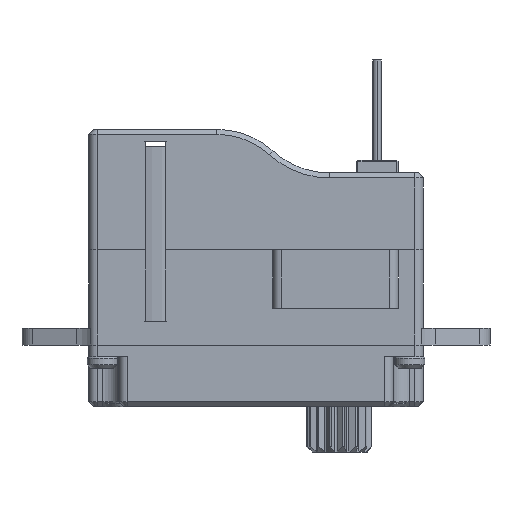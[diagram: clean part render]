
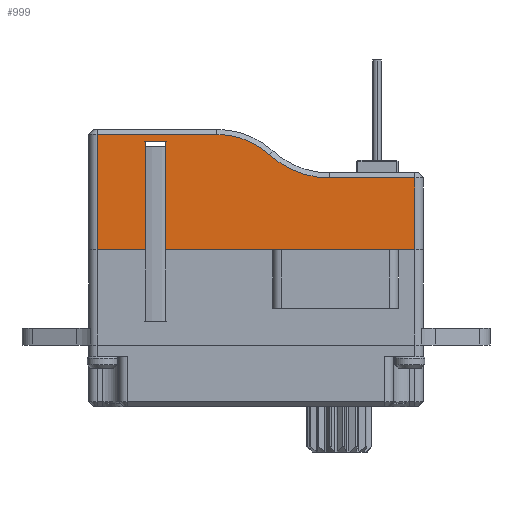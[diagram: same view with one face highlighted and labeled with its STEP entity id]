
A CAD part, front view. The second image highlights one B-rep face of the part: STEP entity #999.
In plain terms, the highlighted planar face has unit normal (0, -1, 0).
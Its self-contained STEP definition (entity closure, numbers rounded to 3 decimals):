
#37 = DIRECTION ( 'NONE',  ( 0., 0., 1. ) ) ;
#292 = CARTESIAN_POINT ( 'NONE',  ( -31.374, -2.147, 9.178 ) ) ;
#509 = EDGE_CURVE ( 'NONE', #3341, #15913, #2601, .T. ) ;
#744 = VECTOR ( 'NONE', #16029, 1000. ) ;
#886 = EDGE_CURVE ( 'NONE', #13020, #7275, #16027, .T. ) ;
#999 = ADVANCED_FACE ( 'NONE', ( #5950 ), #16090, .F. ) ;
#1147 = DIRECTION ( 'NONE',  ( -1., 0., 0. ) ) ;
#1313 = ORIENTED_EDGE ( 'NONE', *, *, #509, .T. ) ;
#1350 = VERTEX_POINT ( 'NONE', #11391 ) ;
#1457 = ORIENTED_EDGE ( 'NONE', *, *, #4459, .T. ) ;
#1727 = LINE ( 'NONE', #13978, #15967 ) ;
#1899 = VERTEX_POINT ( 'NONE', #2606 ) ;
#2224 = AXIS2_PLACEMENT_3D ( 'NONE', #8632, #4825, #14934 ) ;
#2257 = DIRECTION ( 'NONE',  ( 0., 0., -1. ) ) ;
#2465 = DIRECTION ( 'NONE',  ( 1., 0., 0. ) ) ;
#2601 = LINE ( 'NONE', #8459, #10307 ) ;
#2606 = CARTESIAN_POINT ( 'NONE',  ( -41.696, -2.147, 10.4 ) ) ;
#2907 = LINE ( 'NONE', #7209, #744 ) ;
#3096 = ORIENTED_EDGE ( 'NONE', *, *, #3502, .T. ) ;
#3341 = VERTEX_POINT ( 'NONE', #14853 ) ;
#3502 = EDGE_CURVE ( 'NONE', #11653, #12734, #3624, .T. ) ;
#3588 = EDGE_LOOP ( 'NONE', ( #11246, #9457, #5492, #9209, #1457, #7685, #13043, #1313, #15916, #3096, #13703 ) ) ;
#3624 = LINE ( 'NONE', #3852, #7427 ) ;
#3678 = VECTOR ( 'NONE', #10255, 1000. ) ;
#3725 = CARTESIAN_POINT ( 'NONE',  ( -38.789, -2.147, 10. ) ) ;
#3852 = CARTESIAN_POINT ( 'NONE',  ( -22.696, -2.147, 10.7 ) ) ;
#4082 = DIRECTION ( 'NONE',  ( 0., 1., 0. ) ) ;
#4251 = CARTESIAN_POINT ( 'NONE',  ( -41.696, -2.147, 3.5 ) ) ;
#4326 = CIRCLE ( 'NONE', #15205, 5.3 ) ;
#4459 = EDGE_CURVE ( 'NONE', #11780, #15182, #9746, .T. ) ;
#4825 = DIRECTION ( 'NONE',  ( 0., 1., 0. ) ) ;
#5280 = DIRECTION ( 'NONE',  ( 0., 0., -1. ) ) ;
#5430 = CARTESIAN_POINT ( 'NONE',  ( -22.696, -2.147, 3.5 ) ) ;
#5492 = ORIENTED_EDGE ( 'NONE', *, *, #12158, .T. ) ;
#5878 = EDGE_CURVE ( 'NONE', #15913, #11653, #6080, .T. ) ;
#5950 = FACE_OUTER_BOUND ( 'NONE', #3588, .T. ) ;
#6080 = LINE ( 'NONE', #12721, #3678 ) ;
#6359 = VECTOR ( 'NONE', #2465, 1000. ) ;
#6383 = LINE ( 'NONE', #13588, #10714 ) ;
#6497 = CARTESIAN_POINT ( 'NONE',  ( -27.809, -2.147, 13.1 ) ) ;
#6873 = EDGE_CURVE ( 'NONE', #12734, #1350, #6383, .T. ) ;
#7002 = CARTESIAN_POINT ( 'NONE',  ( -38.789, -2.147, 3.5 ) ) ;
#7112 = CARTESIAN_POINT ( 'NONE',  ( -34.535, -2.147, 5.7 ) ) ;
#7209 = CARTESIAN_POINT ( 'NONE',  ( -41.696, -2.147, 10.7 ) ) ;
#7275 = VERTEX_POINT ( 'NONE', #9573 ) ;
#7311 = CARTESIAN_POINT ( 'NONE',  ( -22.696, -2.147, 7.8 ) ) ;
#7334 = CARTESIAN_POINT ( 'NONE',  ( -37.602, -2.147, 3.5 ) ) ;
#7427 = VECTOR ( 'NONE', #15248, 1000. ) ;
#7608 = VECTOR ( 'NONE', #8434, 1000. ) ;
#7647 = EDGE_CURVE ( 'NONE', #1350, #13020, #4326, .T. ) ;
#7685 = ORIENTED_EDGE ( 'NONE', *, *, #13986, .T. ) ;
#8076 = VECTOR ( 'NONE', #9170, 1000. ) ;
#8080 = EDGE_CURVE ( 'NONE', #3341, #9024, #15547, .T. ) ;
#8434 = DIRECTION ( 'NONE',  ( -1., 0., 0. ) ) ;
#8459 = CARTESIAN_POINT ( 'NONE',  ( -37.602, -2.147, 8.5 ) ) ;
#8632 = CARTESIAN_POINT ( 'NONE',  ( -22.196, -2.147, 10.7 ) ) ;
#9024 = VERTEX_POINT ( 'NONE', #3725 ) ;
#9170 = DIRECTION ( 'NONE',  ( -1., 0., 0. ) ) ;
#9209 = ORIENTED_EDGE ( 'NONE', *, *, #13689, .T. ) ;
#9457 = ORIENTED_EDGE ( 'NONE', *, *, #886, .T. ) ;
#9566 = DIRECTION ( 'NONE',  ( 0., 0., -1. ) ) ;
#9573 = CARTESIAN_POINT ( 'NONE',  ( -34.535, -2.147, 10.4 ) ) ;
#9746 = LINE ( 'NONE', #16376, #6359 ) ;
#9985 = LINE ( 'NONE', #13372, #7608 ) ;
#10255 = DIRECTION ( 'NONE',  ( 1., 0., 0. ) ) ;
#10307 = VECTOR ( 'NONE', #2257, 1000. ) ;
#10714 = VECTOR ( 'NONE', #1147, 1000. ) ;
#11246 = ORIENTED_EDGE ( 'NONE', *, *, #7647, .T. ) ;
#11391 = CARTESIAN_POINT ( 'NONE',  ( -27.809, -2.147, 7.8 ) ) ;
#11653 = VERTEX_POINT ( 'NONE', #5430 ) ;
#11780 = VERTEX_POINT ( 'NONE', #4251 ) ;
#12158 = EDGE_CURVE ( 'NONE', #7275, #1899, #9985, .T. ) ;
#12721 = CARTESIAN_POINT ( 'NONE',  ( -22.196, -2.147, 3.5 ) ) ;
#12734 = VERTEX_POINT ( 'NONE', #7311 ) ;
#13020 = VERTEX_POINT ( 'NONE', #292 ) ;
#13043 = ORIENTED_EDGE ( 'NONE', *, *, #8080, .F. ) ;
#13372 = CARTESIAN_POINT ( 'NONE',  ( -41.696, -2.147, 10.4 ) ) ;
#13588 = CARTESIAN_POINT ( 'NONE',  ( -27.809, -2.147, 7.8 ) ) ;
#13689 = EDGE_CURVE ( 'NONE', #1899, #11780, #2907, .T. ) ;
#13703 = ORIENTED_EDGE ( 'NONE', *, *, #6873, .T. ) ;
#13978 = CARTESIAN_POINT ( 'NONE',  ( -38.789, -2.147, 8.5 ) ) ;
#13986 = EDGE_CURVE ( 'NONE', #15182, #9024, #1727, .T. ) ;
#14380 = AXIS2_PLACEMENT_3D ( 'NONE', #7112, #15921, #9566 ) ;
#14853 = CARTESIAN_POINT ( 'NONE',  ( -37.602, -2.147, 10. ) ) ;
#14934 = DIRECTION ( 'NONE',  ( 0., 0., -1. ) ) ;
#15182 = VERTEX_POINT ( 'NONE', #7002 ) ;
#15205 = AXIS2_PLACEMENT_3D ( 'NONE', #6497, #4082, #5280 ) ;
#15248 = DIRECTION ( 'NONE',  ( 0., 0., 1. ) ) ;
#15547 = LINE ( 'NONE', #15636, #8076 ) ;
#15636 = CARTESIAN_POINT ( 'NONE',  ( -37.602, -2.147, 10. ) ) ;
#15913 = VERTEX_POINT ( 'NONE', #7334 ) ;
#15916 = ORIENTED_EDGE ( 'NONE', *, *, #5878, .T. ) ;
#15921 = DIRECTION ( 'NONE',  ( 0., -1., 0. ) ) ;
#15967 = VECTOR ( 'NONE', #37, 1000. ) ;
#16027 = CIRCLE ( 'NONE', #14380, 4.7 ) ;
#16029 = DIRECTION ( 'NONE',  ( 0., 0., -1. ) ) ;
#16090 = PLANE ( 'NONE',  #2224 ) ;
#16376 = CARTESIAN_POINT ( 'NONE',  ( -22.196, -2.147, 3.5 ) ) ;
